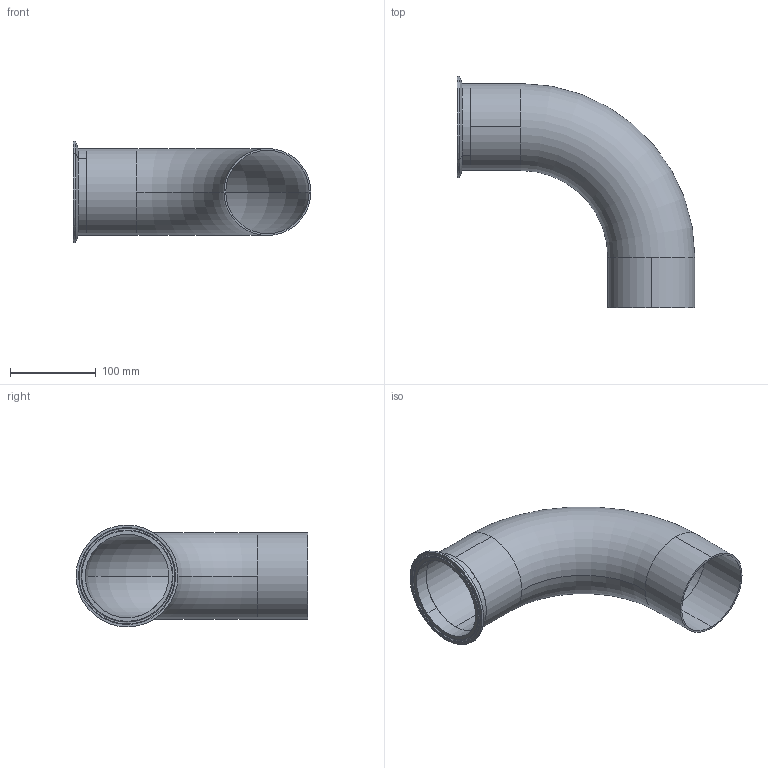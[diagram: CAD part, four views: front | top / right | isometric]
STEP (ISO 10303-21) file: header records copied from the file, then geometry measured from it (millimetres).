
FILE_DESCRIPTION (( 'STEP AP203' ), '1' );
FILE_NAME ('E2C4.0.STEP', '2018-04-30T15:36:00', ( 'vneprd' ), ( 'Microsoft' ), 'SwSTEP 2.0', 'SolidWorks 2014', '' );
FILE_SCHEMA (( 'CONFIG_CONTROL_DESIGN' ));
Length unit declared in the file: inch
Products named in the file (1): E2C4.0
Bounding box: 277.8 x 270.59 x 118.92 mm (x, y, z)
Volume: 257923.4 mm3; surface area: 241303.9 mm2
Topology: 2 solids, 2 shells, 31 faces, 70 edges, 44 vertices
Faces by surface type: cylinder 14, torus 10, plane 5, cone 2
Entity records: 979 total; most frequent: DIRECTION 188, CARTESIAN_POINT 146, ORIENTED_EDGE 140, AXIS2_PLACEMENT_3D 86, EDGE_CURVE 70, CIRCLE 54, VERTEX_POINT 44, EDGE_LOOP 36
